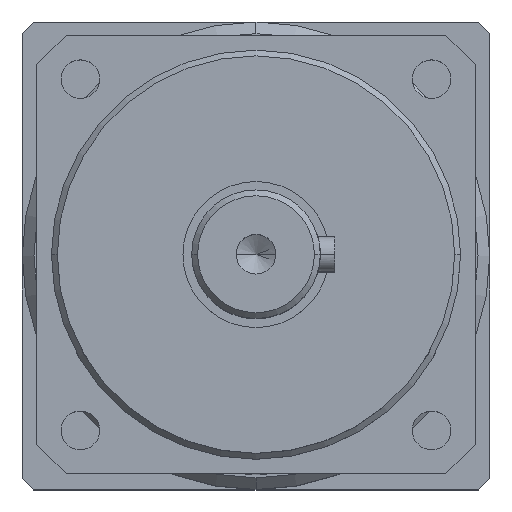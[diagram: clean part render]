
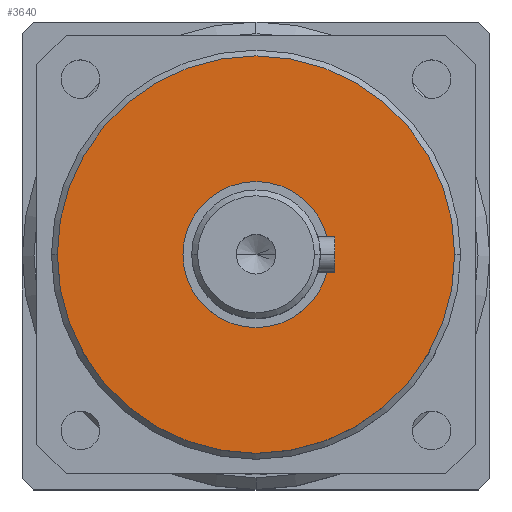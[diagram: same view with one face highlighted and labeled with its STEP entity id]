
A CAD part, top view. The second image highlights one B-rep face of the part: STEP entity #3640.
In plain terms, the highlighted planar face has unit normal (0, 0, 1).
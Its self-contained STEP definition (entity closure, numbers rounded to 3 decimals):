
#835 = DIRECTION ( 'NONE',  ( 1., 0., 0. ) ) ;
#1753 = EDGE_CURVE ( 'NONE', #30966, #26931, #31350, .T. ) ;
#3640 = ADVANCED_FACE ( 'NONE', ( #30744, #18122 ), #19092, .T. ) ;
#8698 = CARTESIAN_POINT ( 'NONE',  ( 0., 0., 5. ) ) ;
#8889 = EDGE_CURVE ( 'NONE', #26931, #30966, #12455, .T. ) ;
#9272 = DIRECTION ( 'NONE',  ( 1., 0., 0. ) ) ;
#9770 = EDGE_CURVE ( 'NONE', #16192, #24038, #12945, .T. ) ;
#10117 = CARTESIAN_POINT ( 'NONE',  ( 34., 0., 5. ) ) ;
#10730 = CARTESIAN_POINT ( 'NONE',  ( 0., 0., 5. ) ) ;
#11174 = DIRECTION ( 'NONE',  ( -1., 0., 0. ) ) ;
#11335 = EDGE_LOOP ( 'NONE', ( #12015, #17327 ) ) ;
#12015 = ORIENTED_EDGE ( 'NONE', *, *, #9770, .T. ) ;
#12052 = AXIS2_PLACEMENT_3D ( 'NONE', #8698, #26135, #11174 ) ;
#12455 = CIRCLE ( 'NONE', #15168, 34. ) ;
#12945 = CIRCLE ( 'NONE', #20420, 12.5 ) ;
#13204 = DIRECTION ( 'NONE',  ( 1., 0., 0. ) ) ;
#13947 = CARTESIAN_POINT ( 'NONE',  ( 0., 0., 5. ) ) ;
#14491 = EDGE_LOOP ( 'NONE', ( #19408, #26183 ) ) ;
#15168 = AXIS2_PLACEMENT_3D ( 'NONE', #10730, #28226, #13204 ) ;
#15747 = DIRECTION ( 'NONE',  ( 0., 0., -1. ) ) ;
#16192 = VERTEX_POINT ( 'NONE', #30818 ) ;
#16466 = DIRECTION ( 'NONE',  ( -1., 0., 0. ) ) ;
#17327 = ORIENTED_EDGE ( 'NONE', *, *, #23765, .T. ) ;
#18122 = FACE_OUTER_BOUND ( 'NONE', #14491, .T. ) ;
#19092 = PLANE ( 'NONE',  #31321 ) ;
#19408 = ORIENTED_EDGE ( 'NONE', *, *, #8889, .F. ) ;
#19662 = AXIS2_PLACEMENT_3D ( 'NONE', #30796, #15747, #835 ) ;
#20420 = AXIS2_PLACEMENT_3D ( 'NONE', #13947, #31525, #16466 ) ;
#21654 = CARTESIAN_POINT ( 'NONE',  ( 0., 0., 5. ) ) ;
#22709 = CIRCLE ( 'NONE', #12052, 12.5 ) ;
#23765 = EDGE_CURVE ( 'NONE', #24038, #16192, #22709, .T. ) ;
#24038 = VERTEX_POINT ( 'NONE', #29876 ) ;
#24162 = DIRECTION ( 'NONE',  ( 0., 0., 1. ) ) ;
#26135 = DIRECTION ( 'NONE',  ( 0., 0., -1. ) ) ;
#26183 = ORIENTED_EDGE ( 'NONE', *, *, #1753, .F. ) ;
#26931 = VERTEX_POINT ( 'NONE', #10117 ) ;
#28226 = DIRECTION ( 'NONE',  ( 0., 0., -1. ) ) ;
#28533 = CARTESIAN_POINT ( 'NONE',  ( -34., 0., 5. ) ) ;
#29876 = CARTESIAN_POINT ( 'NONE',  ( 12.5, 0., 5. ) ) ;
#30744 = FACE_BOUND ( 'NONE', #11335, .T. ) ;
#30796 = CARTESIAN_POINT ( 'NONE',  ( 0., 0., 5. ) ) ;
#30818 = CARTESIAN_POINT ( 'NONE',  ( -12.5, 0., 5. ) ) ;
#30966 = VERTEX_POINT ( 'NONE', #28533 ) ;
#31321 = AXIS2_PLACEMENT_3D ( 'NONE', #21654, #24162, #9272 ) ;
#31350 = CIRCLE ( 'NONE', #19662, 34. ) ;
#31525 = DIRECTION ( 'NONE',  ( 0., 0., -1. ) ) ;
